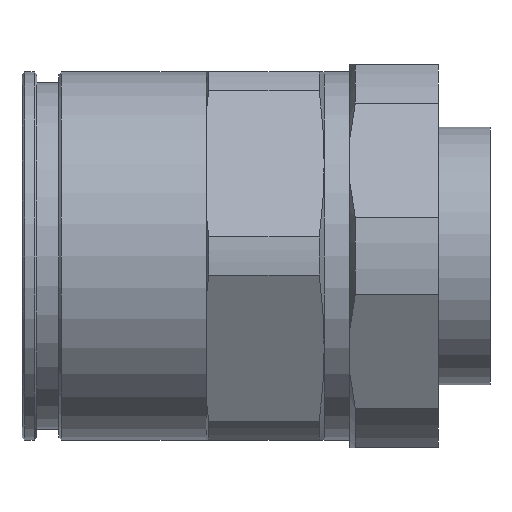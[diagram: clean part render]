
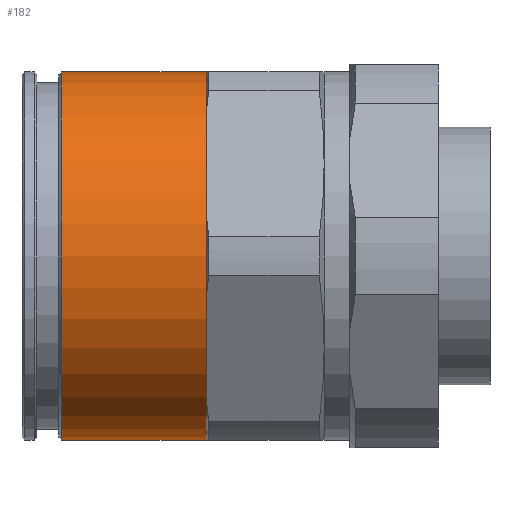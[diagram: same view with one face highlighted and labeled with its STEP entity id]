
A CAD part, front view. The second image highlights one B-rep face of the part: STEP entity #182.
In plain terms, the highlighted cylindrical face has radius 25 mm (diameter 50 mm), a full revolution.
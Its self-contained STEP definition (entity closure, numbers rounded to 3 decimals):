
#182 = ADVANCED_FACE( '', ( #394, #395 ), #396, .T. );
#394 = FACE_OUTER_BOUND( '', #625, .T. );
#395 = FACE_OUTER_BOUND( '', #626, .T. );
#396 = CYLINDRICAL_SURFACE( '', #627, 25. );
#625 = EDGE_LOOP( '', ( #1076 ) );
#626 = EDGE_LOOP( '', ( #1077, #1078, #1079, #1080, #1081, #1082 ) );
#627 = AXIS2_PLACEMENT_3D( '', #1083, #1084, #1085 );
#1076 = ORIENTED_EDGE( '', *, *, #1294, .T. );
#1077 = ORIENTED_EDGE( '', *, *, #1449, .F. );
#1078 = ORIENTED_EDGE( '', *, *, #1390, .F. );
#1079 = ORIENTED_EDGE( '', *, *, #1450, .F. );
#1080 = ORIENTED_EDGE( '', *, *, #1327, .F. );
#1081 = ORIENTED_EDGE( '', *, *, #1377, .F. );
#1082 = ORIENTED_EDGE( '', *, *, #1407, .F. );
#1083 = CARTESIAN_POINT( '', ( 0., 0., 0. ) );
#1084 = DIRECTION( '', ( -1., 0., 0. ) );
#1085 = DIRECTION( '', ( 0., 0., -1. ) );
#1294 = EDGE_CURVE( '', #1529, #1529, #1530, .T. );
#1327 = EDGE_CURVE( '', #1585, #1581, #1587, .T. );
#1377 = EDGE_CURVE( '', #1668, #1585, #1671, .T. );
#1390 = EDGE_CURVE( '', #1689, #1564, #1691, .T. );
#1407 = EDGE_CURVE( '', #1709, #1668, #1711, .T. );
#1449 = EDGE_CURVE( '', #1564, #1709, #1766, .T. );
#1450 = EDGE_CURVE( '', #1581, #1689, #1767, .T. );
#1529 = VERTEX_POINT( '', #1873 );
#1530 = CIRCLE( '', #1874, 25. );
#1564 = VERTEX_POINT( '', #1930 );
#1581 = VERTEX_POINT( '', #1961 );
#1585 = VERTEX_POINT( '', #1966 );
#1587 = CIRCLE( '', #1969, 25. );
#1668 = VERTEX_POINT( '', #2100 );
#1671 = CIRCLE( '', #2104, 25. );
#1689 = VERTEX_POINT( '', #2124 );
#1691 = CIRCLE( '', #2127, 25. );
#1709 = VERTEX_POINT( '', #2156 );
#1711 = CIRCLE( '', #2159, 25. );
#1766 = CIRCLE( '', #2235, 25. );
#1767 = CIRCLE( '', #2236, 25. );
#1873 = CARTESIAN_POINT( '', ( -58.146, 0., -25. ) );
#1874 = AXIS2_PLACEMENT_3D( '', #2349, #2350, #2351 );
#1930 = CARTESIAN_POINT( '', ( -38.5, 21.651, -12.5 ) );
#1961 = CARTESIAN_POINT( '', ( -38.5, -21.651, -12.5 ) );
#1966 = CARTESIAN_POINT( '', ( -38.5, -21.651, 12.5 ) );
#1969 = AXIS2_PLACEMENT_3D( '', #2391, #2392, #2393 );
#2100 = CARTESIAN_POINT( '', ( -38.5, 0., 25. ) );
#2104 = AXIS2_PLACEMENT_3D( '', #2451, #2452, #2453 );
#2124 = CARTESIAN_POINT( '', ( -38.5, 0., -25. ) );
#2127 = AXIS2_PLACEMENT_3D( '', #2475, #2476, #2477 );
#2156 = CARTESIAN_POINT( '', ( -38.5, 21.651, 12.5 ) );
#2159 = AXIS2_PLACEMENT_3D( '', #2494, #2495, #2496 );
#2235 = AXIS2_PLACEMENT_3D( '', #2550, #2551, #2552 );
#2236 = AXIS2_PLACEMENT_3D( '', #2553, #2554, #2555 );
#2349 = CARTESIAN_POINT( '', ( -58.146, 0., 0. ) );
#2350 = DIRECTION( '', ( 1., 0., 0. ) );
#2351 = DIRECTION( '', ( 0., 0., -1. ) );
#2391 = CARTESIAN_POINT( '', ( -38.5, 0., 0. ) );
#2392 = DIRECTION( '', ( 1., 0., 0. ) );
#2393 = DIRECTION( '', ( 0., 0., -1. ) );
#2451 = CARTESIAN_POINT( '', ( -38.5, 0., 0. ) );
#2452 = DIRECTION( '', ( 1., 0., 0. ) );
#2453 = DIRECTION( '', ( 0., 0., -1. ) );
#2475 = CARTESIAN_POINT( '', ( -38.5, 0., 0. ) );
#2476 = DIRECTION( '', ( 1., 0., 0. ) );
#2477 = DIRECTION( '', ( 0., 0., -1. ) );
#2494 = CARTESIAN_POINT( '', ( -38.5, 0., 0. ) );
#2495 = DIRECTION( '', ( 1., 0., 0. ) );
#2496 = DIRECTION( '', ( 0., 0., -1. ) );
#2550 = CARTESIAN_POINT( '', ( -38.5, 0., 0. ) );
#2551 = DIRECTION( '', ( 1., 0., 0. ) );
#2552 = DIRECTION( '', ( 0., 0., -1. ) );
#2553 = CARTESIAN_POINT( '', ( -38.5, 0., 0. ) );
#2554 = DIRECTION( '', ( 1., 0., 0. ) );
#2555 = DIRECTION( '', ( 0., 0., -1. ) );
